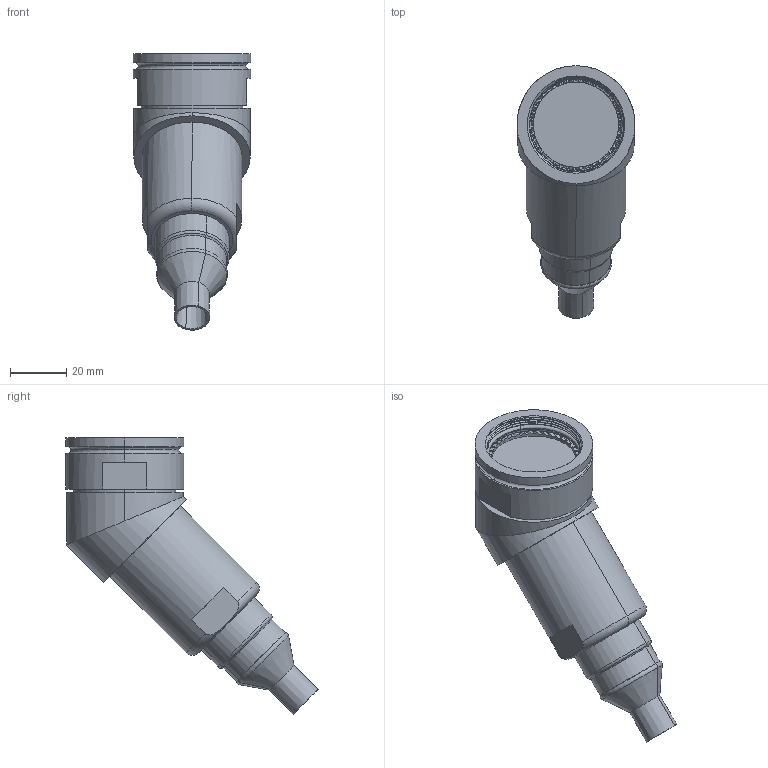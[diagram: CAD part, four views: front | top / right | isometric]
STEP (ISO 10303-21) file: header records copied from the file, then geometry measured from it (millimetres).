
FILE_DESCRIPTION (( 'STEP AP214' ), '1' );
FILE_NAME ('Q38SHELL-45X-23-XXXX-HX.STEP', '2025-09-25T20:04:20', ( '' ), ( '' ), 'SwSTEP 2.0', 'SolidWorks 2024', '' );
FILE_SCHEMA (( 'AUTOMOTIVE_DESIGN' ));
Length unit declared in the file: millimetre
Products named in the file (1): Q38SHELL-45X-23-XXXX-HX
Bounding box: 41.78 x 89.4 x 97.96 mm (x, y, z)
Volume: 96426 mm3; surface area: 19251.1 mm2
Topology: 2 solids, 2 shells, 261 faces, 703 edges, 458 vertices
Faces by surface type: plane 184, cylinder 40, cone 20, torus 14, bspline 3
Entity records: 9211 total; most frequent: CARTESIAN_POINT 2929, ORIENTED_EDGE 1406, DIRECTION 1310, EDGE_CURVE 703, AXIS2_PLACEMENT_3D 539, VERTEX_POINT 458, CIRCLE 280, EDGE_LOOP 275
